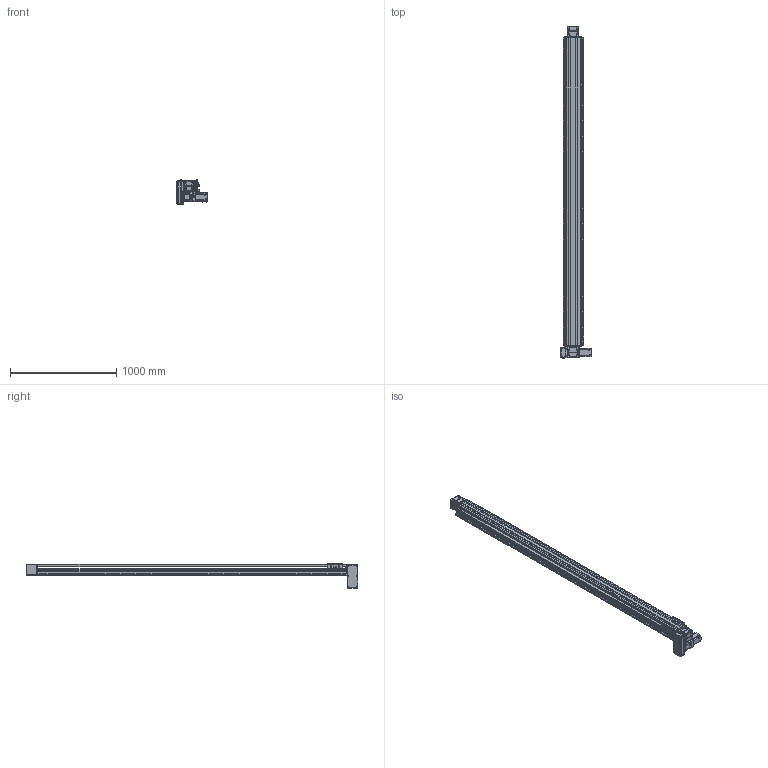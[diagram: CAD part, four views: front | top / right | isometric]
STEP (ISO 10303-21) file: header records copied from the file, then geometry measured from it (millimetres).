
FILE_DESCRIPTION(/* description */ (''),/* implementation_level */ '2;1');
FILE_NAME(/* name */ '\\192.168.0.160\disk1\HAN SHIN Master\B-설계부문\C-표준\B-2024년\BC02-표준도면\+로봇 개선표준도면\홈페이지 표준 도면\홈페이지 최종 작업 폴더\3D\HB\HB160-DL7G-N-2700-R.stp',/* time_stamp */ '2025-01-14T10:42:20+09:00',/* author */ ('user'),/* organization */ (''),/* preprocessor_version */ 'ST-DEVELOPER v18.1',/* originating_system */ 'Autodesk Inventor 2022',/* authorisation */ '');
FILE_SCHEMA (('AUTOMOTIVE_DESIGN { 1 0 10303 214 3 1 1 }'));
Products named in the file (41): HSB160-DL7G-N-0500-R; BASE; HSB160 TABLE (TEST); FORNT HOUSUNG-1 (Connecting); UPCOVER; HSB160 COVER-1; REAR HOUSUNG-1---; HSB160 REAR SHAFT-2; REAR SHAFT--2; 6004ZZ; 6004ZZ Outer ring; 6004ZZ Shield1; 6004ZZ Inner ring; 6004ZZ Ball; 6004ZZ Shield2; STOPPER3; TENSION PLATE; HSB160 ARC COVER; hsr_ftht_A-M6F_grease_nipple_joint; NIPPLE CAP(신규); hg-kr73_; PGX90-H-1_3; HSB160 BEARING OVER; HSB160 END COVER; HSB160 SHAFT-1; 6206ZZ; 6206ZZ Outer ring; 6206ZZ Shield1; 6206ZZ Inner ring; 6206ZZ Ball; 6206ZZ Shield2; HR120 SENSOR DOG; SENSOR BRK(EE-SX674A); EE_SX674A; D MOTOR PLATE ASSY; HSB160 D MOTOR PLATE; HR160 400W LR BELT COVER; 750W MOTOR PLATE; HR180 ACRYL COVER - 1; HR180 ACRYL COVER - 1_1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
Assembly tree (85 placements, depth 3):
  HSB160-DL7G-N-0500-R
    BASE
    HSB160 TABLE (TEST)
    FORNT HOUSUNG-1 (Connecting)
    UPCOVER
    HSB160 COVER-1  x2
    REAR HOUSUNG-1---
    6004ZZ  x2
      6004ZZ Outer ring
      6004ZZ Shield1
      6004ZZ Inner ring
      6004ZZ Ball
      6004ZZ Shield2
    HSB160 REAR SHAFT-2
    REAR SHAFT--2
    TENSION PLATE  x2
    HSB160 ARC COVER  x4
    STOPPER3  x4
    hsr_ftht_A-M6F_grease_nipple_joint  x4
    NIPPLE CAP(신규)  x4
    hg-kr73_
    PGX90-H-1_3
    HSB160 BEARING OVER
    HSB160 END COVER
    6206ZZ  x2
      6206ZZ Outer ring
      6206ZZ Shield1
      6206ZZ Inner ring
      6206ZZ Ball
      6206ZZ Shield2
    HSB160 SHAFT-1
    HR120 SENSOR DOG
    SENSOR BRK(EE-SX674A)  x3
    EE_SX674A  x3
    D MOTOR PLATE ASSY
      HSB160 D MOTOR PLATE
      HR160 400W LR BELT COVER
      750W MOTOR PLATE
      HR180 ACRYL COVER - 1_2  x2
      HR180 ACRYL COVER - 1
      HR180 ACRYL COVER - 1_1
Bounding box: 284.5 x 3128.5 x 226.5 mm (x, y, z)
Volume: 16943394.7 mm3; surface area: 3936675.6 mm2
Topology: 129 solids, 131 shells, 6622 faces, 18259 edges, 12000 vertices
Faces by surface type: plane 4646, cylinder 1423, cone 381, sphere 88, torus 59, bspline 25
Full cylindrical faces by diameter (mm): 2.013 x2, 2.459 x54, 3 x20, 3.242 x42, 3.4 x22, 3.5 x6, 4.134 x18, 4.2 x4, 4.5 x40, 4.917 x88, 5 x44, 5.1 x1, 5.5 x25, 5.6 x4, 5.9 x4, 6 x21, 6.5 x9, 6.6 x18, 6.8 x9, 7 x32, 7.6 x4, 8 x5, 8.376 x30, 8.433 x2, 9 x4, 9.5 x31, 10 x5, 11 x28, 15 x8, 18.5 x2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
Entity records: 124191 total; most frequent: CARTESIAN_POINT 23424, DIRECTION 20734, ORIENTED_EDGE 20094, EDGE_CURVE 10047, AXIS2_PLACEMENT_3D 7085, VERTEX_POINT 6641, LINE 6564, VECTOR 6564
